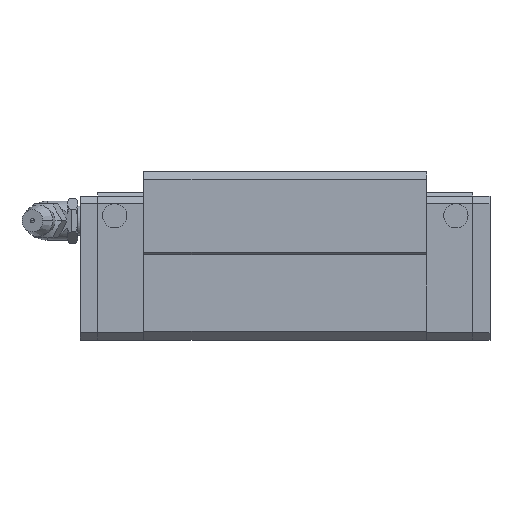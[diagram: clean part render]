
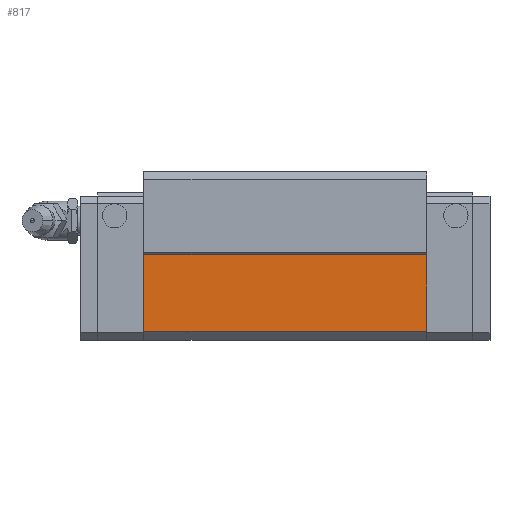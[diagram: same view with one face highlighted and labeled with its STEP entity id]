
A CAD part, front view. The second image highlights one B-rep face of the part: STEP entity #817.
In plain terms, the highlighted planar face has unit normal (0, -1, 0).
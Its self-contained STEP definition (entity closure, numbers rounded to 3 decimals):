
#756=CARTESIAN_POINT('POINT705',(71.,-23.5,
   1.8));
#757=VERTEX_POINT('VERTEX705',#756);
#764=CARTESIAN_POINT('POINT706',(13.,-23.5,
   1.8));
#765=VERTEX_POINT('VERTEX706',#764);
#766=CARTESIAN_POINT('POS1129',(13.,-23.5,
   1.8));
#767=DIRECTION('DIR1537',(1.,0.,0.));
#768=VECTOR('VEC721',#767,1.);
#769=LINE('STRAIGHT721',#766,#768);
#770=EDGE_CURVE('EDGE1098',#765,#757,#769,.T.);
#787=CARTESIAN_POINT('POINT707',(71.,-23.5,
   17.5));
#788=VERTEX_POINT('VERTEX707',#787);
#789=CARTESIAN_POINT('POS1132',(71.,-23.5,
   17.5));
#790=DIRECTION('DIR1541',(0.,0.,1.));
#791=VECTOR('VEC723',#790,1.);
#792=LINE('STRAIGHT723',#789,#791);
#793=EDGE_CURVE('EDGE1100',#757,#788,#792,.T.);
#794=ORIENTED_EDGE('COEDGE2187',*,*,#793,.T.);
#795=CARTESIAN_POINT('POINT708',(13.,-23.5,
   17.5));
#796=VERTEX_POINT('VERTEX708',#795);
#797=CARTESIAN_POINT('POS1133',(13.,-23.5,
   17.5));
#798=DIRECTION('DIR1542',(1.,0.,0.));
#799=VECTOR('VEC724',#798,1.);
#800=LINE('STRAIGHT724',#797,#799);
#801=EDGE_CURVE('EDGE1101',#796,#788,#800,.T.);
#802=ORIENTED_EDGE('COEDGE2188',*,*,#801,.F.);
#803=CARTESIAN_POINT('POS1134',(13.,-23.5,
   17.5));
#804=DIRECTION('DIR1543',(0.,0.,-1.));
#805=VECTOR('VEC725',#804,1.);
#806=LINE('STRAIGHT725',#803,#805);
#807=EDGE_CURVE('EDGE1102',#796,#765,#806,.T.);
#808=ORIENTED_EDGE('COEDGE2189',*,*,#807,.T.);
#809=ORIENTED_EDGE('COEDGE2190',*,*,#770,.T.);
#810=EDGE_LOOP('NONE',(#794,#802,#808,#809));
#811=FACE_BOUND('LOOP1',#810,.T.);
#812=CARTESIAN_POINT('POS1135',(13.,-23.5,
   1.8));
#813=DIRECTION('DIR1544',(0.,-1.,0.));
#814=DIRECTION('DIR1545',(1.,0.,0.));
#815=AXIS2_PLACEMENT_3D('AXIS410',#812,#813,#814);
#816=PLANE('PLANE227',#815);
#817=ADVANCED_FACE('FACE420',(#811),#816,.T.);
